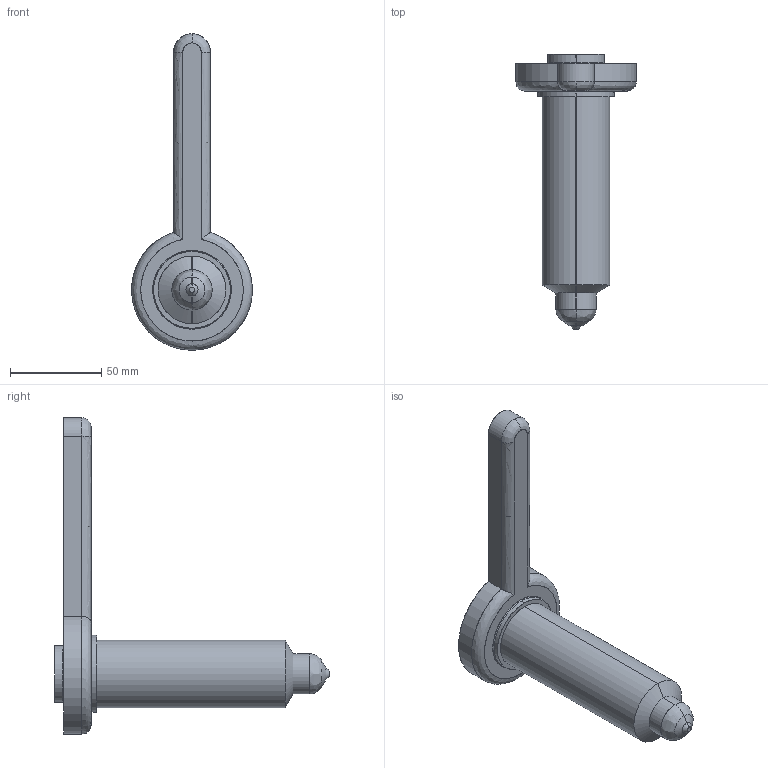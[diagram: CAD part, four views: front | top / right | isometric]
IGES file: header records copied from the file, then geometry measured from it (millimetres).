
Start section: SolidWorks IGES file using analytic representation for surfaces
Global section: file name: C:\Users\luca.EMPAD\Desktop\TEM\Sede UGDL3614-S-A C-127 L-145 Ød-3.0.IGS; native system: SolidWorks 2012; preprocessor: SolidWorks 2012; author: luca; date: 120330.161930; units: millimetre
Bounding box: 65.98 x 150.37 x 173 mm (x, y, z)
Surface area: 30221 mm2 (no closed solid volume)
Topology: 0 solids, 0 shells, 37 faces, 674 edges, 674 vertices
Faces by surface type: revolution 25, bspline 12
